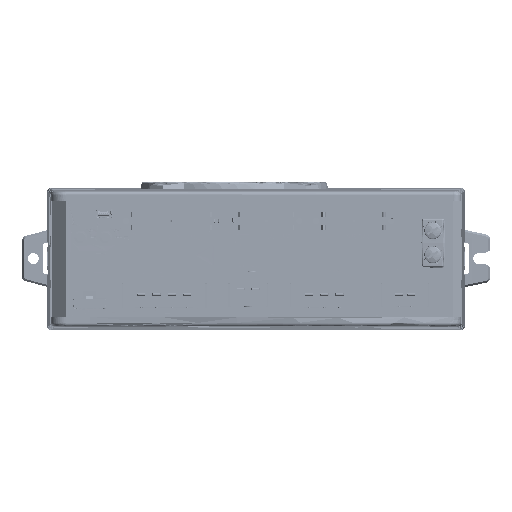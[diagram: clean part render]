
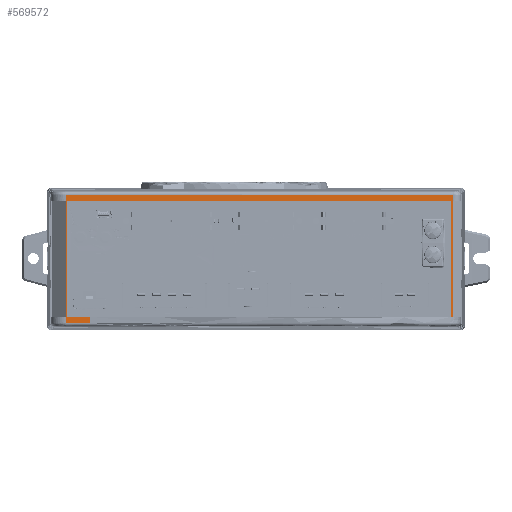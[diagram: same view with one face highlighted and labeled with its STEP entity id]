
A CAD part, front view. The second image highlights one B-rep face of the part: STEP entity #569572.
In plain terms, the highlighted planar face has unit normal (0, -1, 0).
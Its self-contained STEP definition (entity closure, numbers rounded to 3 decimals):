
#499629=DIRECTION('',(0.,0.,
-1.));
#499630=VECTOR('',#499629,2.554);
#499631=CARTESIAN_POINT('',(81.647,-85.327,
49.953));
#499632=LINE('',#499631,#499630);
#499758=DIRECTION('',(-1.,0.,
0.));
#499759=VECTOR('',#499758,9.247);
#499760=CARTESIAN_POINT('',(-69.056,-85.327,
-0.613));
#499761=LINE('',#499760,#499759);
#499765=DIRECTION('',(1.,0.,0.));
#499766=VECTOR('',#499765,0.5);
#499767=CARTESIAN_POINT('',(81.147,-85.327,
-0.613));
#499768=LINE('',#499767,#499766);
#499772=DIRECTION('',(0.,0.,
-1.));
#499773=VECTOR('',#499772,2.566);
#499774=CARTESIAN_POINT('',(-69.056,-85.327,
-0.613));
#499775=LINE('',#499774,#499773);
#499799=DIRECTION('',(0.,0.,-1.));
#499800=VECTOR('',#499799,48.012);
#499801=CARTESIAN_POINT('',(81.647,-85.327,
47.399));
#499802=LINE('',#499801,#499800);
#499818=DIRECTION('',(-1.,0.,0.));
#499819=VECTOR('',#499818,9.947);
#499820=CARTESIAN_POINT('',(-69.056,-85.327,
-3.18));
#499821=LINE('',#499820,#499819);
#499845=DIRECTION('',(0.,0.,1.));
#499846=VECTOR('',#499845,2.551);
#499847=CARTESIAN_POINT('',(-79.003,-85.327,
-3.18));
#499848=LINE('',#499847,#499846);
#499931=DIRECTION('',(0.,0.,1.));
#499932=VECTOR('',#499931,2.539);
#499933=CARTESIAN_POINT('',(-79.003,-85.327,
47.414));
#499934=LINE('',#499933,#499932);
#500230=DIRECTION('',(1.,0.,0.));
#500231=VECTOR('',#500230,160.651);
#500232=CARTESIAN_POINT('',(-79.003,-85.327,
49.953));
#500233=LINE('',#500232,#500231);
#500237=DIRECTION('',(0.,0.,-1.));
#500238=VECTOR('',#500237,48.043);
#500239=CARTESIAN_POINT('',(-79.003,-85.327,
47.414));
#500240=LINE('',#500239,#500238);
#505480=DIRECTION('',(0.,0.,1.));
#505481=VECTOR('',#505480,48.012);
#505482=CARTESIAN_POINT('',(-78.303,-85.327,
-0.613));
#505483=LINE('',#505482,#505481);
#505494=DIRECTION('',(1.,0.,0.));
#505495=VECTOR('',#505494,159.451);
#505496=CARTESIAN_POINT('',(-78.303,-85.327,47.399));
#505497=LINE('',#505496,#505495);
#505515=DIRECTION('',(0.,0.,-1.));
#505516=VECTOR('',#505515,48.012);
#505517=CARTESIAN_POINT('',(81.147,-85.327,47.399));
#505518=LINE('',#505517,#505516);
#546629=CARTESIAN_POINT('',(81.647,-85.327,
49.953));
#546631=VERTEX_POINT('',#546629);
#546638=CARTESIAN_POINT('',(-79.003,-85.327,
49.953));
#546639=VERTEX_POINT('',#546638);
#546640=CARTESIAN_POINT('',(-79.003,-85.327,
47.414));
#546641=VERTEX_POINT('',#546640);
#546644=CARTESIAN_POINT('',(-79.003,-85.327,
-3.18));
#546646=VERTEX_POINT('',#546644);
#553342=CARTESIAN_POINT('',(-69.056,-85.327,
-3.18));
#553343=VERTEX_POINT('',#553342);
#553346=CARTESIAN_POINT('',(81.647,-85.327,
47.399));
#553347=VERTEX_POINT('',#553346);
#553348=CARTESIAN_POINT('',(81.647,-85.327,
-0.613));
#553349=VERTEX_POINT('',#553348);
#553352=CARTESIAN_POINT('',(-69.056,-85.327,
-0.613));
#553353=VERTEX_POINT('',#553352);
#553354=CARTESIAN_POINT('',(-78.303,-85.327,
-0.613));
#553355=VERTEX_POINT('',#553354);
#553356=CARTESIAN_POINT('',(-78.303,-85.327,47.399));
#553357=VERTEX_POINT('',#553356);
#553358=CARTESIAN_POINT('',(81.147,-85.327,47.399));
#553359=VERTEX_POINT('',#553358);
#553360=CARTESIAN_POINT('',(81.147,-85.327,
-0.613));
#553361=VERTEX_POINT('',#553360);
#553362=CARTESIAN_POINT('',(-79.003,-85.327,
-0.629));
#553363=VERTEX_POINT('',#553362);
#569544=CARTESIAN_POINT('',(1.322,-85.327,23.387));
#569545=DIRECTION('',(0.,1.,0.));
#569546=DIRECTION('',(0.,0.,1.));
#569547=AXIS2_PLACEMENT_3D('',#569544,#569545,#569546);
#569548=PLANE('',#569547);
#569550=ORIENTED_EDGE('',*,*,#569549,.T.);
#569552=ORIENTED_EDGE('',*,*,#569551,.T.);
#569554=ORIENTED_EDGE('',*,*,#569553,.F.);
#569556=ORIENTED_EDGE('',*,*,#569555,.T.);
#569558=ORIENTED_EDGE('',*,*,#569557,.T.);
#569559=ORIENTED_EDGE('',*,*,#569425,.T.);
#569560=ORIENTED_EDGE('',*,*,#569450,.T.);
#569561=ORIENTED_EDGE('',*,*,#569520,.F.);
#569563=ORIENTED_EDGE('',*,*,#569562,.F.);
#569565=ORIENTED_EDGE('',*,*,#569564,.F.);
#569567=ORIENTED_EDGE('',*,*,#569566,.F.);
#569568=ORIENTED_EDGE('',*,*,#569512,.F.);
#569569=ORIENTED_EDGE('',*,*,#569534,.T.);
#569570=EDGE_LOOP('',(#569550,#569552,#569554,#569556,#569558,#569559,#569560,
#569561,#569563,#569565,#569567,#569568,#569569));
#569571=FACE_OUTER_BOUND('',#569570,.F.);
#569425=EDGE_CURVE('',#546631,#553347,#499632,.T.);
#569450=EDGE_CURVE('',#553347,#553349,#499802,.T.);
#569512=EDGE_CURVE('',#553353,#553355,#499761,.T.);
#569520=EDGE_CURVE('',#553361,#553349,#499768,.T.);
#569534=EDGE_CURVE('',#553353,#553343,#499775,.T.);
#569549=EDGE_CURVE('',#553343,#546646,#499821,.T.);
#569551=EDGE_CURVE('',#546646,#553363,#499848,.T.);
#569553=EDGE_CURVE('',#546641,#553363,#500240,.T.);
#569555=EDGE_CURVE('',#546641,#546639,#499934,.T.);
#569557=EDGE_CURVE('',#546639,#546631,#500233,.T.);
#569562=EDGE_CURVE('',#553359,#553361,#505518,.T.);
#569564=EDGE_CURVE('',#553357,#553359,#505497,.T.);
#569566=EDGE_CURVE('',#553355,#553357,#505483,.T.);
#569572=ADVANCED_FACE('',(#569571),#569548,.F.);
